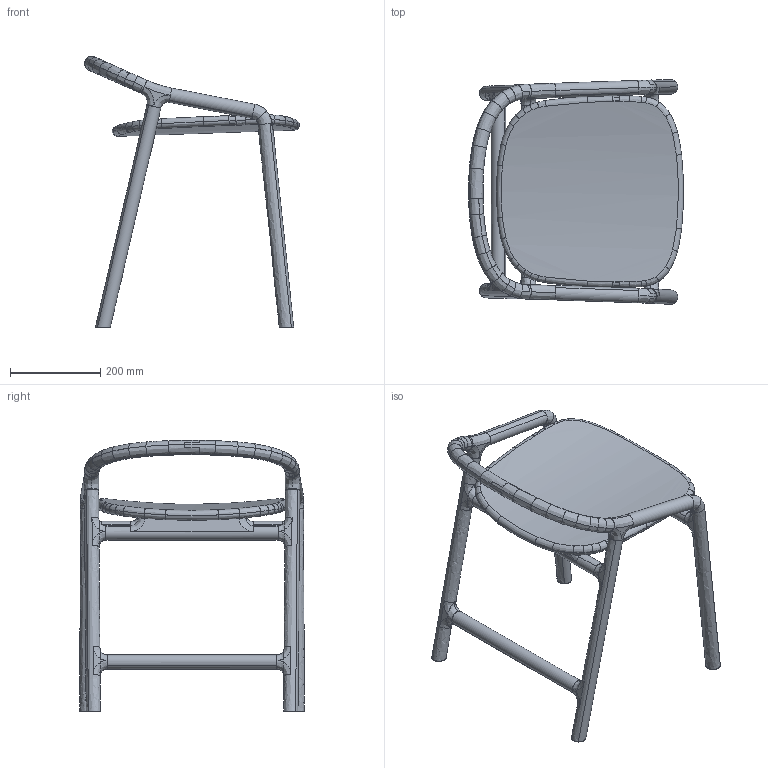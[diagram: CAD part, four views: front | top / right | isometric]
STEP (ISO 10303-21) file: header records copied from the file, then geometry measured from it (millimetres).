
FILE_DESCRIPTION (( 'STEP AP203' ), '1' );
FILE_NAME ('BRIONI MALA STOLICA-HOKLICA.STEP', '2020-07-08T11:23:44', ( '' ), ( '' ), 'SwSTEP 2.0', 'SolidWorks 2020', '' );
FILE_SCHEMA (( 'CONFIG_CONTROL_DESIGN' ));
Length unit declared in the file: millimetre
Products named in the file (1): BRIONI MALA STOLICA-HOKLICA
Bounding box: 476.15 x 497.96 x 601.19 mm (x, y, z)
Surface area: 782813.8 mm2 (no closed solid volume)
Topology: 0 solids, 4 shells, 500 faces, 1432 edges, 936 vertices
Faces by surface type: bspline 272, cylinder 114, plane 114
Entity records: 115436 total; most frequent: CARTESIAN_POINT 105920, ORIENTED_EDGE 2848, EDGE_CURVE 1432, B_SPLINE_CURVE_WITH_KNOTS 1028, VERTEX_POINT 936, DIRECTION 733, EDGE_LOOP 504, FACE_OUTER_BOUND 500
